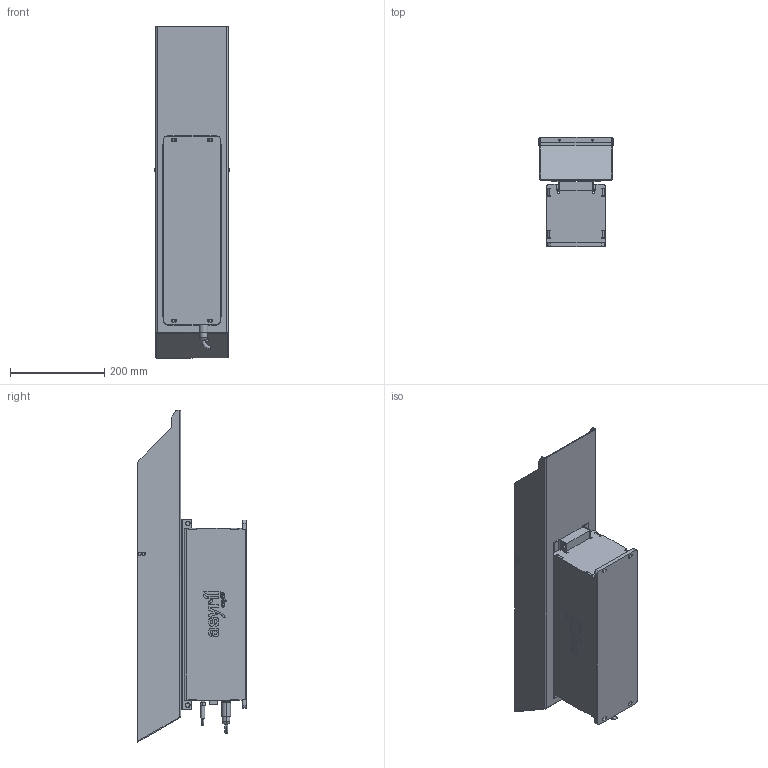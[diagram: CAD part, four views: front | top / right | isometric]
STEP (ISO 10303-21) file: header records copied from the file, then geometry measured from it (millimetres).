
FILE_DESCRIPTION (( 'STEP AP214' ), '1' );
FILE_NAME ('Asyril_ASYFILL_M_7L.STEP', '2023-05-09T11:08:56', ( '%MACHINENAME%' ), ( 'CPA-GROUP.LOCAL' ), 'SwSTEP 2.0', 'SolidWorks 2019', '' );
FILE_SCHEMA (( 'AUTOMOTIVE_DESIGN' ));
Length unit declared in the file: millimetre
Products named in the file (5): Asyril_ASYFILL M_000.105.374; Asyril_7 LITER ASYFILL CONTAINER_000.105.382_(option); Asyril_FEMALE STRAIGHT 5P 5m M16 POWER CABLE_900.006.215_(option); Asyril_ASYFILL_M_7L; Asyril_FEMALE STRAIGHT 4P Xm M08 MOLDED CABLE_XXX.XXX.XXX_(option)
Assembly tree (4 placements, depth 2):
  Asyril_ASYFILL_M_7L
    Asyril_ASYFILL M_000.105.374
    Asyril_7 LITER ASYFILL CONTAINER_000.105.382_(option)
    Asyril_FEMALE STRAIGHT 5P 5m M16 POWER CABLE_900.006.215_(option)
    Asyril_FEMALE STRAIGHT 4P Xm M08 MOLDED CABLE_XXX.XXX.XXX_(option)
Bounding box: 158.6 x 230.99 x 704.13 mm (x, y, z)
Volume: 6539037.6 mm3; surface area: 786224.2 mm2
Topology: 38 solids, 39 shells, 937 faces, 2357 edges, 1526 vertices
Faces by surface type: plane 486, cylinder 236, bspline 169, torus 21, cone 17, sphere 8
Entity records: 32559 total; most frequent: CARTESIAN_POINT 8144, ORIENTED_EDGE 4662, DIRECTION 3941, EDGE_CURVE 2331, VERTEX_POINT 1518, VECTOR 1383, LINE 1383, AXIS2_PLACEMENT_3D 1279
